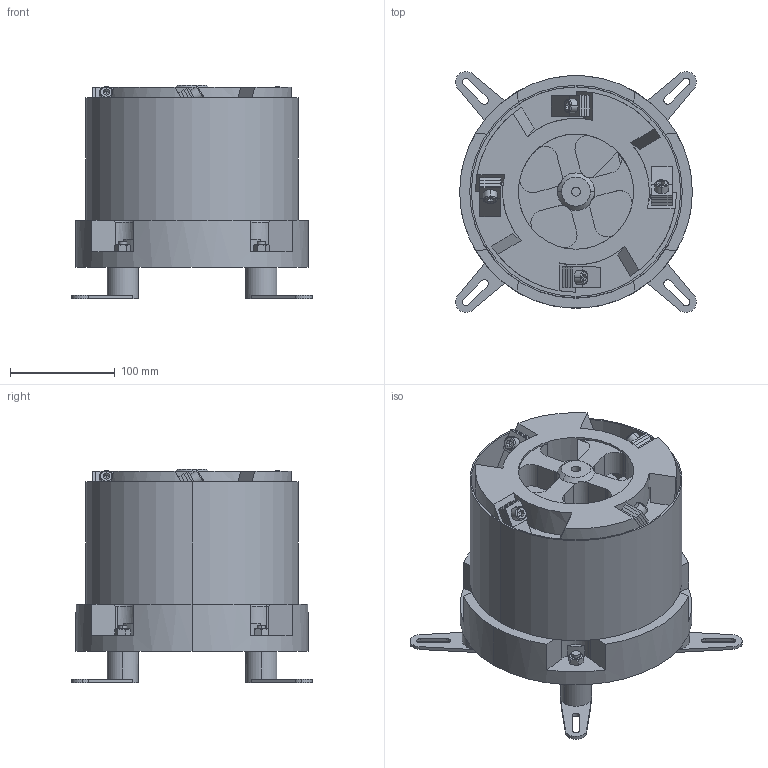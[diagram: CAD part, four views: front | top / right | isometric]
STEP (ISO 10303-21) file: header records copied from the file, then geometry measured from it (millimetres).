
FILE_DESCRIPTION(/* description */ (''),/* implementation_level */ '2;1');
FILE_NAME(/* name */ 'DA200 铁盖.stp',/* time_stamp */ '2025-07-17T19:51:50+08:00',/* author */ (''),/* organization */ (''),/* preprocessor_version */ 'ST-DEVELOPER v18.102',/* originating_system */ 'SIEMENS PLM Software NX2206.1700',/* authorisation */ '');
FILE_SCHEMA (('AP203_CONFIGURATION_CONTROLLED_3D_DESIGN_OF_MECHANICAL_PARTS_AND_ASSEMBLIES_MIM_LF { 1 0 10303 403 2 1 2}'));
Length unit declared in the file: millimetre
Products named in the file (1): DA200  铁盖_2023_step_objects
Bounding box: 230.01 x 230.01 x 204 mm (x, y, z)
Volume: 4532280.8 mm3; surface area: 450110 mm2
Topology: 23 solids, 27 shells, 518 faces, 1269 edges, 822 vertices
Faces by surface type: plane 291, cylinder 159, cone 53, torus 15
Entity records: 15878 total; most frequent: CARTESIAN_POINT 3342, DIRECTION 2576, ORIENTED_EDGE 2522, EDGE_CURVE 1261, AXIS2_PLACEMENT_3D 952, VERTEX_POINT 822, LINE 672, VECTOR 672
